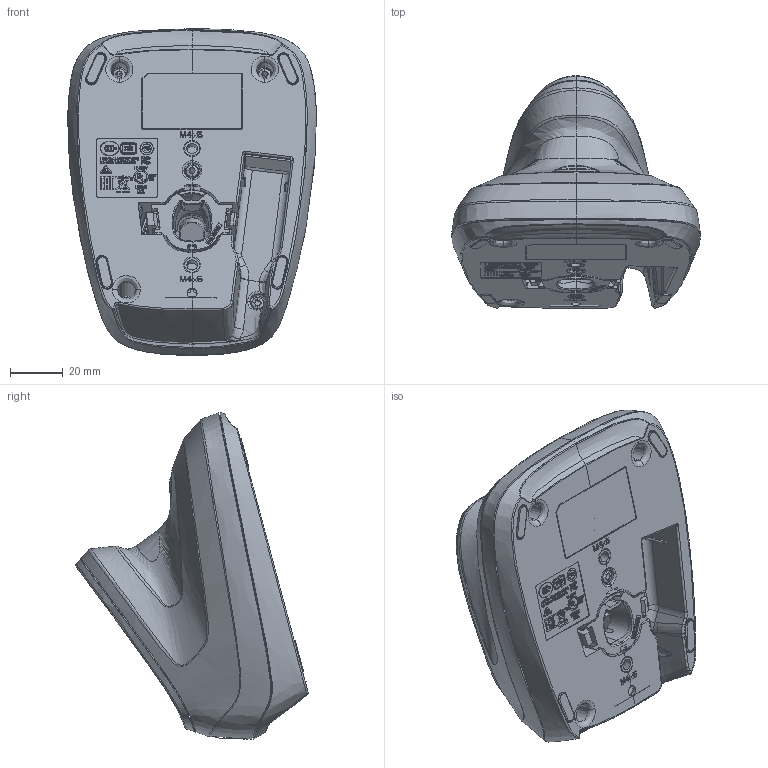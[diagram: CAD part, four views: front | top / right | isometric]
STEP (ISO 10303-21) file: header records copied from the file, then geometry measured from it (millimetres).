
FILE_DESCRIPTION((''),'2;1');
FILE_NAME('20-184364_ASSY_FINAL__SW0001','2017-03-03T',('FPMD34'),('Zebra Technologies Corp.'),'CREO PARAMETRIC BY PTC INC, 2016130','CREO PARAMETRIC BY PTC INC, 2016130','');
FILE_SCHEMA(('CONFIG_CONTROL_DESIGN'));
Products named in the file (1): 20-184364_ASSY_FINAL__SW0001
Bounding box: 93.96 x 87.65 x 123.31 mm (x, y, z)
Surface area: 106227.8 mm2 (no closed solid volume)
Topology: 0 solids, 635 shells, 2130 faces, 17773 edges, 16083 vertices
Faces by surface type: plane 1047, bspline 789, cylinder 161, cone 70, sphere 32, torus 16, extrusion 15
Entity records: 507195 total; most frequent: CARTESIAN_POINT 395787, ORIENTED_EDGE 20487, EDGE_CURVE 17766, DIRECTION 16242, VERTEX_POINT 16085, VECTOR 8160, LINE 8145, B_SPLINE_CURVE_WITH_KNOTS 6921
